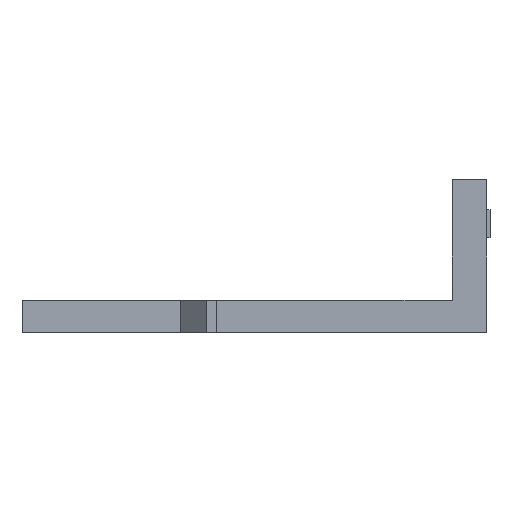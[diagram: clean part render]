
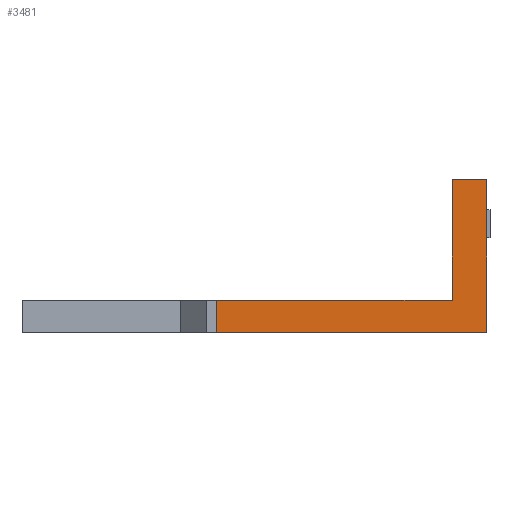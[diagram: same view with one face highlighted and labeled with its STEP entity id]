
A CAD part, left-side view. The second image highlights one B-rep face of the part: STEP entity #3481.
In plain terms, the highlighted planar face has unit normal (-1, 0, 0).
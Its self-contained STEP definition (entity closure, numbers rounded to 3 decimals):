
#44 = PLANE('',#45);
#45 = AXIS2_PLACEMENT_3D('',#46,#47,#48);
#46 = CARTESIAN_POINT('',(17.378,116.45,0.));
#47 = DIRECTION('',(0.,0.,1.));
#48 = DIRECTION('',(0.,-1.,0.));
#100 = PLANE('',#101);
#101 = AXIS2_PLACEMENT_3D('',#102,#103,#104);
#102 = CARTESIAN_POINT('',(17.378,116.45,8.));
#103 = DIRECTION('',(0.,0.,1.));
#104 = DIRECTION('',(0.,-1.,0.));
#273 = VERTEX_POINT('',#274);
#274 = CARTESIAN_POINT('',(17.378,67.95,0.));
#288 = PLANE('',#289);
#289 = AXIS2_PLACEMENT_3D('',#290,#291,#292);
#290 = CARTESIAN_POINT('',(0.,67.95,0.));
#291 = DIRECTION('',(0.,-1.,0.));
#292 = DIRECTION('',(1.,0.,0.));
#300 = EDGE_CURVE('',#273,#301,#303,.T.);
#301 = VERTEX_POINT('',#302);
#302 = CARTESIAN_POINT('',(17.378,0.75,0.));
#303 = SURFACE_CURVE('',#304,(#308,#315),.PCURVE_S1.);
#304 = LINE('',#305,#306);
#305 = CARTESIAN_POINT('',(17.378,116.45,0.));
#306 = VECTOR('',#307,1.);
#307 = DIRECTION('',(0.,-1.,0.));
#308 = PCURVE('',#44,#309);
#309 = DEFINITIONAL_REPRESENTATION('',(#310),#314);
#310 = LINE('',#311,#312);
#311 = CARTESIAN_POINT('',(0.,0.));
#312 = VECTOR('',#313,1.);
#313 = DIRECTION('',(1.,0.));
#314 = ( GEOMETRIC_REPRESENTATION_CONTEXT(2) 
PARAMETRIC_REPRESENTATION_CONTEXT() REPRESENTATION_CONTEXT('2D SPACE',''
  ) );
#315 = PCURVE('',#316,#321);
#316 = PLANE('',#317);
#317 = AXIS2_PLACEMENT_3D('',#318,#319,#320);
#318 = CARTESIAN_POINT('',(17.378,116.45,0.));
#319 = DIRECTION('',(1.,0.,0.));
#320 = DIRECTION('',(0.,-1.,0.));
#321 = DEFINITIONAL_REPRESENTATION('',(#322),#326);
#322 = LINE('',#323,#324);
#323 = CARTESIAN_POINT('',(0.,0.));
#324 = VECTOR('',#325,1.);
#325 = DIRECTION('',(1.,0.));
#326 = ( GEOMETRIC_REPRESENTATION_CONTEXT(2) 
PARAMETRIC_REPRESENTATION_CONTEXT() REPRESENTATION_CONTEXT('2D SPACE',''
  ) );
#342 = PLANE('',#343);
#343 = AXIS2_PLACEMENT_3D('',#344,#345,#346);
#344 = CARTESIAN_POINT('',(17.378,0.75,0.));
#345 = DIRECTION('',(0.,-1.,0.));
#346 = DIRECTION('',(1.,0.,0.));
#749 = VERTEX_POINT('',#750);
#750 = CARTESIAN_POINT('',(17.378,67.95,8.));
#771 = EDGE_CURVE('',#749,#772,#774,.T.);
#772 = VERTEX_POINT('',#773);
#773 = CARTESIAN_POINT('',(17.378,9.45,8.));
#774 = SURFACE_CURVE('',#775,(#779,#786),.PCURVE_S1.);
#775 = LINE('',#776,#777);
#776 = CARTESIAN_POINT('',(17.378,116.45,8.));
#777 = VECTOR('',#778,1.);
#778 = DIRECTION('',(0.,-1.,0.));
#779 = PCURVE('',#100,#780);
#780 = DEFINITIONAL_REPRESENTATION('',(#781),#785);
#781 = LINE('',#782,#783);
#782 = CARTESIAN_POINT('',(0.,0.));
#783 = VECTOR('',#784,1.);
#784 = DIRECTION('',(1.,0.));
#785 = ( GEOMETRIC_REPRESENTATION_CONTEXT(2) 
PARAMETRIC_REPRESENTATION_CONTEXT() REPRESENTATION_CONTEXT('2D SPACE',''
  ) );
#786 = PCURVE('',#316,#787);
#787 = DEFINITIONAL_REPRESENTATION('',(#788),#792);
#788 = LINE('',#789,#790);
#789 = CARTESIAN_POINT('',(0.,-8.));
#790 = VECTOR('',#791,1.);
#791 = DIRECTION('',(1.,0.));
#792 = ( GEOMETRIC_REPRESENTATION_CONTEXT(2) 
PARAMETRIC_REPRESENTATION_CONTEXT() REPRESENTATION_CONTEXT('2D SPACE',''
  ) );
#808 = PLANE('',#809);
#809 = AXIS2_PLACEMENT_3D('',#810,#811,#812);
#810 = CARTESIAN_POINT('',(17.378,9.45,8.));
#811 = DIRECTION('',(0.,-1.,0.));
#812 = DIRECTION('',(1.,0.,0.));
#1120 = PLANE('',#1121);
#1121 = AXIS2_PLACEMENT_3D('',#1122,#1123,#1124);
#1122 = CARTESIAN_POINT('',(17.378,9.45,38.));
#1123 = DIRECTION('',(0.,0.,1.));
#1124 = DIRECTION('',(0.,-1.,0.));
#1156 = EDGE_CURVE('',#301,#1157,#1159,.T.);
#1157 = VERTEX_POINT('',#1158);
#1158 = CARTESIAN_POINT('',(17.378,0.75,38.));
#1159 = SURFACE_CURVE('',#1160,(#1164,#1171),.PCURVE_S1.);
#1160 = LINE('',#1161,#1162);
#1161 = CARTESIAN_POINT('',(17.378,0.75,0.));
#1162 = VECTOR('',#1163,1.);
#1163 = DIRECTION('',(0.,0.,1.));
#1164 = PCURVE('',#342,#1165);
#1165 = DEFINITIONAL_REPRESENTATION('',(#1166),#1170);
#1166 = LINE('',#1167,#1168);
#1167 = CARTESIAN_POINT('',(0.,0.));
#1168 = VECTOR('',#1169,1.);
#1169 = DIRECTION('',(0.,1.));
#1170 = ( GEOMETRIC_REPRESENTATION_CONTEXT(2) 
PARAMETRIC_REPRESENTATION_CONTEXT() REPRESENTATION_CONTEXT('2D SPACE',''
  ) );
#1171 = PCURVE('',#316,#1172);
#1172 = DEFINITIONAL_REPRESENTATION('',(#1173),#1177);
#1173 = LINE('',#1174,#1175);
#1174 = CARTESIAN_POINT('',(115.7,0.));
#1175 = VECTOR('',#1176,1.);
#1176 = DIRECTION('',(0.,-1.));
#1177 = ( GEOMETRIC_REPRESENTATION_CONTEXT(2) 
PARAMETRIC_REPRESENTATION_CONTEXT() REPRESENTATION_CONTEXT('2D SPACE',''
  ) );
#3481 = ADVANCED_FACE('',(#3482),#316,.F.);
#3482 = FACE_BOUND('',#3483,.F.);
#3483 = EDGE_LOOP('',(#3484,#3485,#3506,#3507,#3530,#3551));
#3484 = ORIENTED_EDGE('',*,*,#300,.F.);
#3485 = ORIENTED_EDGE('',*,*,#3486,.F.);
#3486 = EDGE_CURVE('',#749,#273,#3487,.T.);
#3487 = SURFACE_CURVE('',#3488,(#3492,#3499),.PCURVE_S1.);
#3488 = LINE('',#3489,#3490);
#3489 = CARTESIAN_POINT('',(17.378,67.95,0.));
#3490 = VECTOR('',#3491,1.);
#3491 = DIRECTION('',(0.,0.,-1.));
#3492 = PCURVE('',#316,#3493);
#3493 = DEFINITIONAL_REPRESENTATION('',(#3494),#3498);
#3494 = LINE('',#3495,#3496);
#3495 = CARTESIAN_POINT('',(48.5,0.));
#3496 = VECTOR('',#3497,1.);
#3497 = DIRECTION('',(0.,1.));
#3498 = ( GEOMETRIC_REPRESENTATION_CONTEXT(2) 
PARAMETRIC_REPRESENTATION_CONTEXT() REPRESENTATION_CONTEXT('2D SPACE',''
  ) );
#3499 = PCURVE('',#288,#3500);
#3500 = DEFINITIONAL_REPRESENTATION('',(#3501),#3505);
#3501 = LINE('',#3502,#3503);
#3502 = CARTESIAN_POINT('',(17.378,0.));
#3503 = VECTOR('',#3504,1.);
#3504 = DIRECTION('',(0.,-1.));
#3505 = ( GEOMETRIC_REPRESENTATION_CONTEXT(2) 
PARAMETRIC_REPRESENTATION_CONTEXT() REPRESENTATION_CONTEXT('2D SPACE',''
  ) );
#3506 = ORIENTED_EDGE('',*,*,#771,.T.);
#3507 = ORIENTED_EDGE('',*,*,#3508,.T.);
#3508 = EDGE_CURVE('',#772,#3509,#3511,.T.);
#3509 = VERTEX_POINT('',#3510);
#3510 = CARTESIAN_POINT('',(17.378,9.45,38.));
#3511 = SURFACE_CURVE('',#3512,(#3516,#3523),.PCURVE_S1.);
#3512 = LINE('',#3513,#3514);
#3513 = CARTESIAN_POINT('',(17.378,9.45,8.));
#3514 = VECTOR('',#3515,1.);
#3515 = DIRECTION('',(0.,0.,1.));
#3516 = PCURVE('',#316,#3517);
#3517 = DEFINITIONAL_REPRESENTATION('',(#3518),#3522);
#3518 = LINE('',#3519,#3520);
#3519 = CARTESIAN_POINT('',(107.,-8.));
#3520 = VECTOR('',#3521,1.);
#3521 = DIRECTION('',(0.,-1.));
#3522 = ( GEOMETRIC_REPRESENTATION_CONTEXT(2) 
PARAMETRIC_REPRESENTATION_CONTEXT() REPRESENTATION_CONTEXT('2D SPACE',''
  ) );
#3523 = PCURVE('',#808,#3524);
#3524 = DEFINITIONAL_REPRESENTATION('',(#3525),#3529);
#3525 = LINE('',#3526,#3527);
#3526 = CARTESIAN_POINT('',(0.,0.));
#3527 = VECTOR('',#3528,1.);
#3528 = DIRECTION('',(0.,1.));
#3529 = ( GEOMETRIC_REPRESENTATION_CONTEXT(2) 
PARAMETRIC_REPRESENTATION_CONTEXT() REPRESENTATION_CONTEXT('2D SPACE',''
  ) );
#3530 = ORIENTED_EDGE('',*,*,#3531,.T.);
#3531 = EDGE_CURVE('',#3509,#1157,#3532,.T.);
#3532 = SURFACE_CURVE('',#3533,(#3537,#3544),.PCURVE_S1.);
#3533 = LINE('',#3534,#3535);
#3534 = CARTESIAN_POINT('',(17.378,9.45,38.));
#3535 = VECTOR('',#3536,1.);
#3536 = DIRECTION('',(0.,-1.,0.));
#3537 = PCURVE('',#316,#3538);
#3538 = DEFINITIONAL_REPRESENTATION('',(#3539),#3543);
#3539 = LINE('',#3540,#3541);
#3540 = CARTESIAN_POINT('',(107.,-38.));
#3541 = VECTOR('',#3542,1.);
#3542 = DIRECTION('',(1.,0.));
#3543 = ( GEOMETRIC_REPRESENTATION_CONTEXT(2) 
PARAMETRIC_REPRESENTATION_CONTEXT() REPRESENTATION_CONTEXT('2D SPACE',''
  ) );
#3544 = PCURVE('',#1120,#3545);
#3545 = DEFINITIONAL_REPRESENTATION('',(#3546),#3550);
#3546 = LINE('',#3547,#3548);
#3547 = CARTESIAN_POINT('',(0.,0.));
#3548 = VECTOR('',#3549,1.);
#3549 = DIRECTION('',(1.,0.));
#3550 = ( GEOMETRIC_REPRESENTATION_CONTEXT(2) 
PARAMETRIC_REPRESENTATION_CONTEXT() REPRESENTATION_CONTEXT('2D SPACE',''
  ) );
#3551 = ORIENTED_EDGE('',*,*,#1156,.F.);
